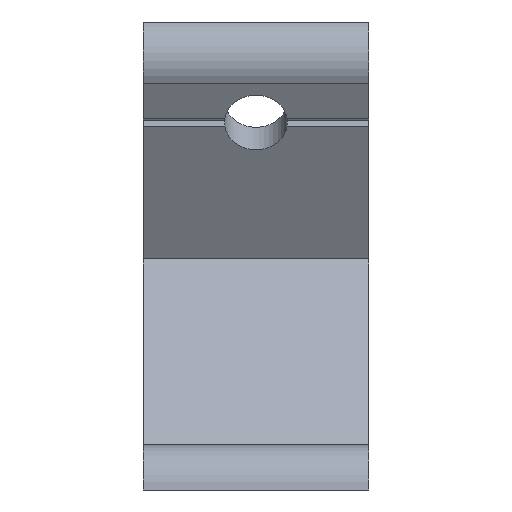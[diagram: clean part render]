
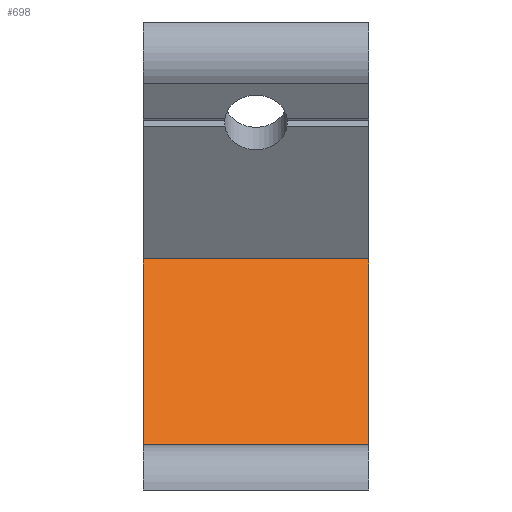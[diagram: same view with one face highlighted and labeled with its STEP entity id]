
A CAD part, left-side view. The second image highlights one B-rep face of the part: STEP entity #698.
In plain terms, the highlighted planar face has unit normal (-0.866, 0, 0.5).
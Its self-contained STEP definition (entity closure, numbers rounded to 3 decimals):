
#75=LINE('',#1097,#149);
#92=LINE('',#1132,#166);
#99=LINE('',#1147,#173);
#101=LINE('',#1152,#175);
#149=VECTOR('',#874,1000.);
#166=VECTOR('',#901,1000.);
#173=VECTOR('',#914,1000.);
#175=VECTOR('',#920,1000.);
#308=ORIENTED_EDGE('',*,*,#438,.T.);
#309=ORIENTED_EDGE('',*,*,#467,.F.);
#310=ORIENTED_EDGE('',*,*,#458,.F.);
#311=ORIENTED_EDGE('',*,*,#470,.T.);
#438=EDGE_CURVE('',#536,#535,#75,.T.);
#458=EDGE_CURVE('',#548,#549,#92,.T.);
#467=EDGE_CURVE('',#549,#535,#99,.T.);
#470=EDGE_CURVE('',#548,#536,#101,.T.);
#535=VERTEX_POINT('',#1096);
#536=VERTEX_POINT('',#1098);
#548=VERTEX_POINT('',#1131);
#549=VERTEX_POINT('',#1133);
#594=EDGE_LOOP('',(#308,#309,#310,#311));
#632=FACE_BOUND('',#594,.T.);
#668=PLANE('',#765);
#698=ADVANCED_FACE('',(#632),#668,.F.);
#765=AXIS2_PLACEMENT_3D('',#1167,#938,#939);
#874=DIRECTION('',(-0.5,0.,-0.866));
#901=DIRECTION('',(-0.5,0.,-0.866));
#914=DIRECTION('',(0.,1.,0.));
#920=DIRECTION('',(0.,1.,0.));
#938=DIRECTION('',(0.866,0.,-0.5));
#939=DIRECTION('',(-0.5,0.,-0.866));
#1096=CARTESIAN_POINT('',(-32.506,12.5,5.));
#1097=CARTESIAN_POINT('',(-20.583,12.5,25.651));
#1098=CARTESIAN_POINT('',(-20.583,12.5,25.651));
#1131=CARTESIAN_POINT('',(-20.583,-12.5,25.651));
#1132=CARTESIAN_POINT('',(-20.583,-12.5,25.651));
#1133=CARTESIAN_POINT('',(-32.506,-12.5,5.));
#1147=CARTESIAN_POINT('',(-32.506,-12.5,5.));
#1152=CARTESIAN_POINT('',(-20.583,-12.5,25.651));
#1167=CARTESIAN_POINT('',(-20.583,-12.5,25.651));
